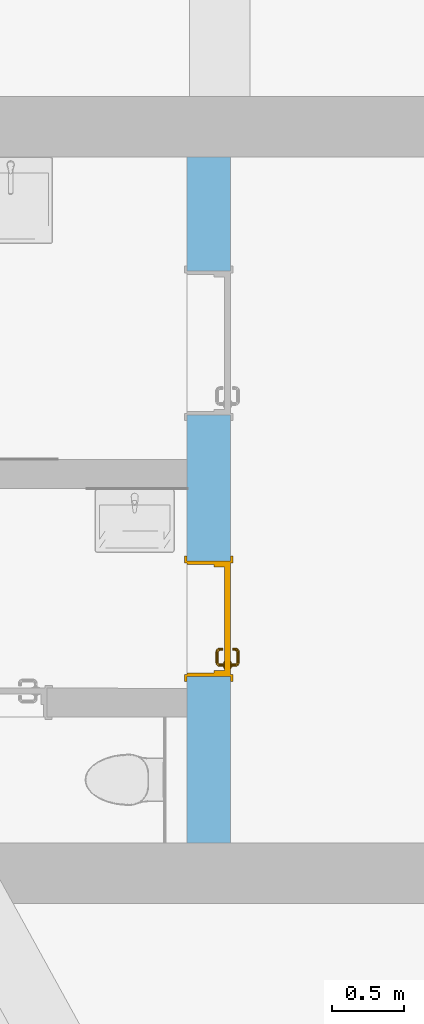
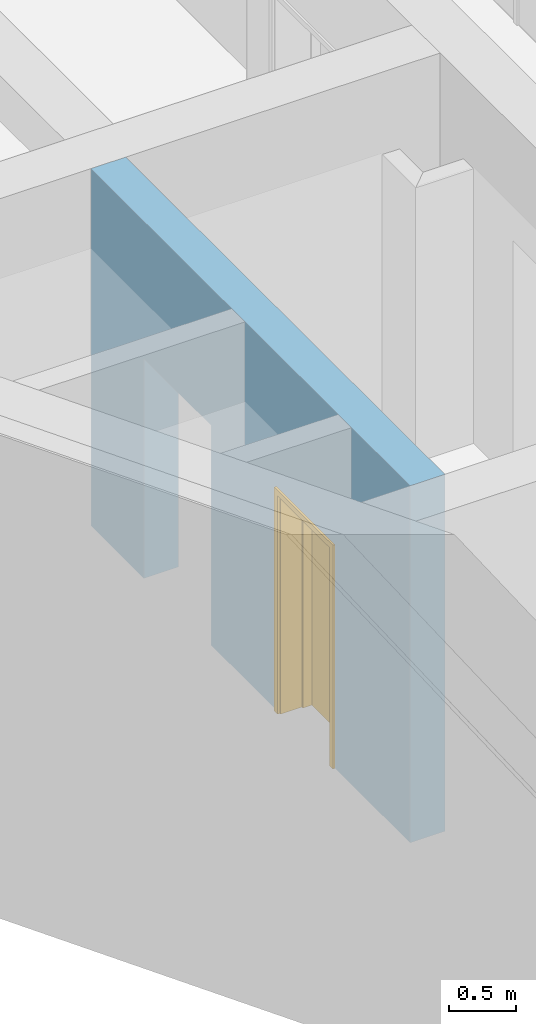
# One storey, part 47 of 194: 1 door, 2 openings, plus 1 element that does not belong to this part.
"""IFC2X3 building model written with IfcOpenShell, lengths in millimetres."""

import ifcopenshell
import ifcopenshell.guid

model = None  # the IFC model being written
_history = None  # IfcOwnerHistory: only IFC2X3 demands one
_inside = {}  # id of a spatial element -> (the spatial element, [elements in it])
_under = {}  # id of a project, library or spatial element -> (it, [spatial elements below it])
_declared = {}  # id of a project -> (the project, [libraries it declares])
_typed = {}  # id of a type object -> (the type object, [elements of that type])
_made_of = {}  # id of a material, layer set ... -> (it, [elements and type objects made of it])


def new_model(schema):
    """Start an empty IFC model of exactly this schema.

    Asked for "IFC4X3", IfcOpenShell would pick the latest addendum, in which some entities
    have other attributes; the version numbers below select the first issue.
    IFC2X3 requires an IfcOwnerHistory on every rooted entity: one is made here for all.
    """
    global model, _history
    if schema == "IFC4X3":
        model = ifcopenshell.file(schema_version=(4, 3, 0, 0))
    else:
        model = ifcopenshell.file(schema=schema)
    _inside.clear()
    _under.clear()
    _declared.clear()
    _typed.clear()
    _made_of.clear()
    _history = None
    if model.schema == "IFC2X3":
        org = make("IfcOrganization", Name="unknown")
        user = make(
            "IfcPersonAndOrganization",
            ThePerson=make("IfcPerson", FamilyName="unknown"),
            TheOrganization=org,
        )
        app = make(
            "IfcApplication",
            ApplicationDeveloper=org,
            Version="unknown",
            ApplicationFullName="unknown",
            ApplicationIdentifier="unknown",
        )
        _history = make(
            "IfcOwnerHistory",
            OwningUser=user,
            OwningApplication=app,
            ChangeAction="ADDED",
            CreationDate=0,
        )
    return model


def make(cls, **values):
    """One entity of the class cls with the attributes given. An attribute that is None is left unset."""
    return model.create_entity(
        cls, **{name: value for name, value in values.items() if value is not None}
    )


def entity(cls, *values):
    """Any entity or typed value of the class cls, its attributes in the order of the schema. None: left unset."""
    e = model.create_entity(cls)
    for i, value in enumerate(values):
        if value is not None:
            e[i] = value
    return e


def rooted(cls, **values):
    """An entity with a GlobalId (a new one), such as an element, a storey or a relation."""
    return make(cls, GlobalId=ifcopenshell.guid.new(), OwnerHistory=_history, **values)


def si_unit(unit_type, name, prefix=None):
    """IfcSIUnit, for example si_unit("LENGTHUNIT", "METRE", prefix="MILLI")."""
    return make("IfcSIUnit", UnitType=unit_type, Prefix=prefix, Name=name)


def converted_unit(unit_type, name, factor, base, dimensions=None, offset=None):
    """IfcConversionBasedUnit, such as the inch: factor (a typed value) times the base unit."""
    return make(
        "IfcConversionBasedUnit"
        if offset is None
        else "IfcConversionBasedUnitWithOffset",
        ConversionOffset=offset,
        Dimensions=None
        if dimensions is None
        else entity("IfcDimensionalExponents", *dimensions),
        UnitType=unit_type,
        Name=name,
        ConversionFactor=make(
            "IfcMeasureWithUnit", ValueComponent=factor, UnitComponent=base
        ),
    )


def derived_unit(unit_type, elements):
    """IfcDerivedUnit: a product of units, each with its exponent."""
    return make(
        "IfcDerivedUnit",
        Elements=[
            make("IfcDerivedUnitElement", Unit=unit, Exponent=power)
            for unit, power in elements
        ],
        UnitType=unit_type,
    )


def money_unit(currency):
    """IfcMonetaryUnit."""
    return make("IfcMonetaryUnit", Currency=currency)


def assignment(units):
    """IfcUnitAssignment: the units of a project."""
    return None if units is None else make("IfcUnitAssignment", Units=units)


def point(xyz):
    """IfcCartesianPoint."""
    return None if xyz is None else make("IfcCartesianPoint", Coordinates=xyz)


def direction(xyz):
    """IfcDirection."""
    return None if xyz is None else make("IfcDirection", DirectionRatios=xyz)


def frame(location, z_axis=None, x_axis=None):
    """IfcAxis2Placement3D, a coordinate frame: its origin and axes. An axis left out is left unset."""
    return make(
        "IfcAxis2Placement3D",
        Location=point(location),
        Axis=direction(z_axis),
        RefDirection=direction(x_axis),
    )


def frame_2d(location, x_axis=None):
    """IfcAxis2Placement2D, a coordinate frame in the plane: its origin and x axis."""
    return make(
        "IfcAxis2Placement2D", Location=point(location), RefDirection=direction(x_axis)
    )


def origin_with_axes():
    """The frame at (0, 0, 0) with the z axis (0, 0, 1) and the x axis (1, 0, 0) written out."""
    return frame((0.0, 0.0, 0.0), z_axis=(0.0, 0.0, 1.0), x_axis=(1.0, 0.0, 0.0))


def origin_2d_with_axis():
    """The frame at (0, 0) in the plane with the x axis (1, 0) written out."""
    return frame_2d((0.0, 0.0), x_axis=(1.0, 0.0))


def place(relative_to, where):
    """IfcLocalPlacement: puts the frame where relative to a parent placement (None: the world)."""
    return make(
        "IfcLocalPlacement", PlacementRelTo=relative_to, RelativePlacement=where
    )


def context(
    kind, dimensions, precision=None, world=None, true_north=None, identifier=None
):
    """IfcGeometricRepresentationContext, for example the 3D "Model" context."""
    return make(
        "IfcGeometricRepresentationContext",
        ContextIdentifier=identifier,
        ContextType=kind,
        CoordinateSpaceDimension=dimensions,
        Precision=precision,
        WorldCoordinateSystem=world,
        TrueNorth=true_north,
    )


def subcontext(parent, identifier, kind, view, scale=None):
    """IfcGeometricRepresentationSubContext, for example "Body" below "Model"."""
    return make(
        "IfcGeometricRepresentationSubContext",
        ContextIdentifier=identifier,
        ContextType=kind,
        ParentContext=parent,
        TargetScale=scale,
        TargetView=view,
    )


def project(units=None, contexts=None):
    """IfcProject with its units and contexts."""
    return rooted(
        "IfcProject",
        Name="project",
        RepresentationContexts=contexts,
        UnitsInContext=assignment(units),
    )


def spatial(cls, under=None, at=None, **own):
    """A site, building, storey or space (cls), placed at a placement, below another one or the project."""
    s = rooted(cls, ObjectPlacement=at, **own)
    if under is not None:
        _under.setdefault(under.id(), (under, []))[1].append(s)
    return s


def polyline(points):
    """IfcPolyline through the points."""
    return make("IfcPolyline", Points=[point(p) for p in points])


def profile(cls, at=None, kind="AREA", **sizes):
    """A parametric profile (cls). Its sizes go by their IFC names, for example OverallWidth=200.0."""
    return make(cls, ProfileType=kind, Position=at, **sizes)


def rectangle(**sizes):
    """IfcRectangleProfileDef."""
    return profile("IfcRectangleProfileDef", **sizes)


def outline(outer, holes=None, kind="AREA"):
    """IfcArbitraryClosedProfileDef: a profile drawn as a closed curve; with holes, ...WithVoids."""
    if holes is None:
        return make("IfcArbitraryClosedProfileDef", ProfileType=kind, OuterCurve=outer)
    return make(
        "IfcArbitraryProfileDefWithVoids",
        ProfileType=kind,
        OuterCurve=outer,
        InnerCurves=holes,
    )


def extrude(swept, where, along, depth):
    """IfcExtrudedAreaSolid: the profile swept, set in the frame where, extruded along a direction by depth."""
    return make(
        "IfcExtrudedAreaSolid",
        SweptArea=swept,
        Position=where,
        ExtrudedDirection=direction(along),
        Depth=depth,
    )


def faces_of(points, faces, orient=None, outer=None):
    """IfcFace entities. A face is a list of loops; a loop is a list of indices into points, from 0.

    orient and outer hold one flag for each loop. By default every Orientation is true, the
    first loop of a face is its IfcFaceOuterBound and the others are IfcFaceBound.
    """
    made = []
    for i, loops in enumerate(faces):
        bounds = []
        for j, loop in enumerate(loops):
            is_outer = j == 0 if outer is None else outer[i][j]
            bounds.append(
                make(
                    "IfcFaceOuterBound" if is_outer else "IfcFaceBound",
                    Bound=make("IfcPolyLoop", Polygon=[points[k] for k in loop]),
                    Orientation=True if orient is None else orient[i][j],
                )
            )
        made.append(make("IfcFace", Bounds=bounds))
    return made


def open_shell(faces, orient=None, outer=None):
    """The faces of one IfcOpenShell. surface_model builds it on its shared points."""
    return ("IfcOpenShell", faces, orient, outer)


def faceted_brep(points, faces, orient=None, outer=None, voids=None):
    """IfcFacetedBrep: a solid bounded by flat faces; with voids (closed shells), ...WithVoids."""
    shared = [point(p) for p in points]
    hull = make("IfcClosedShell", CfsFaces=faces_of(shared, faces, orient, outer))
    if voids is None:
        return make("IfcFacetedBrep", Outer=hull)
    return make(
        "IfcFacetedBrepWithVoids",
        Outer=hull,
        Voids=[
            make(cls, CfsFaces=faces_of(shared, fs, o, b)) for cls, fs, o, b in voids
        ],
    )


def surface_model(cls, points, shells):
    """IfcFaceBasedSurfaceModel or IfcShellBasedSurfaceModel (cls): surfaces that need not close."""
    shared = [point(p) for p in points]
    made = [make(c, CfsFaces=faces_of(shared, fs, o, b)) for c, fs, o, b in shells]
    if cls == "IfcFaceBasedSurfaceModel":
        return make(cls, FbsmFaces=made)
    return make(cls, SbsmBoundary=made)


def shape(context_of_items, identifier, shape_type, items):
    """IfcShapeRepresentation: the items that make up one representation, for example the "Body"."""
    return make(
        "IfcShapeRepresentation",
        ContextOfItems=context_of_items,
        RepresentationIdentifier=identifier,
        RepresentationType=shape_type,
        Items=items,
    )


def material(Name=None, Category=None):
    """IfcMaterial."""
    return make("IfcMaterial", Name=Name, Category=Category)


def layer(
    of_material, thickness, ventilated=None, Name=None, Category=None, Priority=None
):
    """IfcMaterialLayer: one layer of a wall or slab, of a material (None: an air gap)."""
    return make(
        "IfcMaterialLayer",
        Material=of_material,
        LayerThickness=thickness,
        IsVentilated=ventilated,
        Name=Name,
        Category=Category,
        Priority=Priority,
    )


def layer_set(layers, Name=None):
    """IfcMaterialLayerSet."""
    return make("IfcMaterialLayerSet", MaterialLayers=layers, LayerSetName=Name)


def layer_usage(for_layer_set, set_direction, sense, offset, extent=None):
    """IfcMaterialLayerSetUsage: how a layer set lies in its element."""
    return make(
        "IfcMaterialLayerSetUsage",
        ForLayerSet=for_layer_set,
        LayerSetDirection=set_direction,
        DirectionSense=sense,
        OffsetFromReferenceLine=offset,
        ReferenceExtent=extent,
    )


def made_of(thing, what):
    """Note that an element or type object is made of a material, layer set ...; save() writes the relation."""
    if what is not None:
        _made_of.setdefault(what.id(), (what, []))[1].append(thing)
    return thing


def type_object(cls, material=None, **own):
    """A type object (cls), such as IfcWallType, which elements share."""
    return made_of(rooted(cls, **own), material)


def element(
    cls,
    number,
    at=None,
    inside=None,
    cuts=None,
    type_object=None,
    material=None,
    context=None,
    identifier="Body",
    shape_type=None,
    held_by="IfcProductDefinitionShape",
    body=None,
    shapes=None,
    **own,
):
    """One element of the class cls, such as IfcWall. Its Tag is "e" and its number.

    at: its placement. inside: the storey or other place that contains it. cuts: it is an
    opening in that element (IfcRelVoidsElement). A single representation is given by context,
    identifier, shape_type and body (its items); several are given by shapes. held_by: the class
    of the entity that holds the representations. save() writes the other relations.
    """
    e = rooted(cls, Tag="e%d" % number, ObjectPlacement=at, **own)
    if body is not None:
        shapes = [shape(context, identifier, shape_type, body)]
    if shapes is not None:
        e.Representation = make(held_by, Representations=shapes)
    if inside is not None:
        _inside.setdefault(inside.id(), (inside, []))[1].append(e)
    if cuts is not None:
        rooted(
            "IfcRelVoidsElement", RelatingBuildingElement=cuts, RelatedOpeningElement=e
        )
    if type_object is not None:
        _typed.setdefault(type_object.id(), (type_object, []))[1].append(e)
    return made_of(e, material)


def fill(opening, filler):
    """IfcRelFillsElement: the door or window that sits in an opening."""
    return rooted(
        "IfcRelFillsElement",
        RelatingOpeningElement=opening,
        RelatedBuildingElement=filler,
    )


def aggregate(whole, parts):
    """IfcRelAggregates: a whole, such as a stair, and the parts it consists of."""
    return rooted("IfcRelAggregates", RelatingObject=whole, RelatedObjects=parts)


def save(model, path):
    """Write the relations noted so far, then the file.

    IfcRelAggregates (storeys below a building ...), IfcRelContainedInSpatialStructure (elements
    in a storey), IfcRelDefinesByType, IfcRelAssociatesMaterial and IfcRelDeclares: one each for
    every whole, place, type object, material and project.
    """
    for whole, parts in _under.values():
        aggregate(whole, parts)
    for where, things in _inside.values():
        rooted(
            "IfcRelContainedInSpatialStructure",
            RelatedElements=things,
            RelatingStructure=where,
        )
    for kind, things in _typed.values():
        rooted("IfcRelDefinesByType", RelatedObjects=things, RelatingType=kind)
    for what, things in _made_of.values():
        rooted("IfcRelAssociatesMaterial", RelatedObjects=things, RelatingMaterial=what)
    for by, libraries in _declared.values():
        rooted("IfcRelDeclares", RelatingContext=by, RelatedDefinitions=libraries)
    model.write(path)


model = new_model("IFC2X3")

# Units and contexts
model_context = context("Model", 3, precision=1e-05, world=origin_with_axes(), true_north=direction((0.0, 1.0)))
body_context = subcontext(model_context, "Body", "Model", "MODEL_VIEW")
ifc_project = project(units=[si_unit("LENGTHUNIT", "METRE", prefix="MILLI"), si_unit("AREAUNIT", "SQUARE_METRE"), si_unit("VOLUMEUNIT", "CUBIC_METRE"), converted_unit("PLANEANGLEUNIT", "DEGREE", entity("IfcPlaneAngleMeasure", 0.0174532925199), si_unit("PLANEANGLEUNIT", "RADIAN"), dimensions=[0, 0, 0, 0, 0, 0, 0]), si_unit("SOLIDANGLEUNIT", "STERADIAN"), money_unit("EUR"), converted_unit("TIMEUNIT", "Year", entity("IfcTimeMeasure", 31556926.0), si_unit("TIMEUNIT", "SECOND"), dimensions=[0, 0, 1, 0, 0, 0, 0]), si_unit("MASSUNIT", "GRAM", prefix="KILO"), si_unit("THERMODYNAMICTEMPERATUREUNIT", "DEGREE_CELSIUS"), si_unit("LUMINOUSINTENSITYUNIT", "LUMEN"), si_unit("ENERGYUNIT", "JOULE", prefix="MEGA"), derived_unit("THERMALCONDUCTANCEUNIT", [(si_unit("POWERUNIT", "WATT"), 1), (si_unit("LENGTHUNIT", "METRE"), -1), (si_unit("THERMODYNAMICTEMPERATUREUNIT", "KELVIN"), -1)]), derived_unit("SPECIFICHEATCAPACITYUNIT", [(si_unit("ENERGYUNIT", "JOULE"), 1), (si_unit("MASSUNIT", "GRAM", prefix="KILO"), -1), (si_unit("THERMODYNAMICTEMPERATUREUNIT", "KELVIN"), -1)]), derived_unit("MASSDENSITYUNIT", [(si_unit("MASSUNIT", "GRAM", prefix="KILO"), 1), (si_unit("VOLUMEUNIT", "CUBIC_METRE"), -1)])], contexts=[model_context])

# Site, building, storey
site_placement = place(None, origin_with_axes())
site = spatial("IfcSite", under=ifc_project, at=site_placement, Name="Site", CompositionType="ELEMENT")
building_placement = place(site_placement, origin_with_axes())
building = spatial("IfcBuilding", under=site, at=building_placement, Name="Building", CompositionType="ELEMENT")
storey_placement = place(building_placement, frame((0.0, 0.0, 3000.0), z_axis=(0.0, 0.0, 1.0), x_axis=(1.0, 0.0, 0.0)))
storey = spatial("IfcBuildingStorey", under=building, at=storey_placement, Name="2 KORRUS", CompositionType="ELEMENT", Elevation=3000.0)

# Wall, openings, door
ifc_material = material(Name="Kivi -Ol.Olev Konstruktsioon")
ifc_layer = layer(ifc_material, 300.0, ventilated="UNKNOWN")
ifc_layer_set = layer_set([ifc_layer], Name="ol.olev ss 300")
ifc_layer_usage = layer_usage(ifc_layer_set, "AXIS2", "POSITIVE", 0.0)
wall_type = type_object("IfcWallType", Name="SW - 022", PredefinedType="NOTDEFINED")
wall_placement = place(storey_placement, frame((33717.5084509, 13483.9813304, 0.0), z_axis=(0.0, 0.0, 1.0), x_axis=(0.0, -1.0, 0.0)))
wall = element("IfcWallStandardCase", 1, at=wall_placement, inside=storey, type_object=wall_type, material=ifc_layer_usage, Name="ol.olev ss 300", context=body_context, shape_type="SweptSolid", body=[
    extrude(outline(polyline([(0.0, 0.0), (4760.45253446, 0.0), (4760.45253446, 300.0), (0.0, 300.0), (0.0, 0.0)])), origin_with_axes(), (0.0, 0.0, 1.0), 3250.0),
])
opening_1_placement = place(wall_placement, frame((3204.63694047, 0.0, 0.0), z_axis=(0.0, 0.0, 1.0), x_axis=(1.0, 0.0, 0.0)))
opening_1 = element("IfcOpeningElement", 2, at=opening_1_placement, cuts=wall, Name="Siseuks * Door 22", context=body_context, shape_type="SweptSolid", body=[
    extrude(rectangle(XDim=799.999999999, YDim=2000.0, at=origin_2d_with_axis()), frame((0.0, -300.0, 1000.0), z_axis=(0.0, -1.0, 0.0), x_axis=(-1.0, 0.0, 0.0)), (0.0, 0.0, -1.0), 900.0),
    extrude(rectangle(XDim=874.0, YDim=2037.0, at=origin_2d_with_axis()), frame((0.0, 0.0, 1018.5), z_axis=(0.0, -1.0, 0.0), x_axis=(-1.0, 0.0, 0.0)), (0.0, 0.0, 1.0), 300.0),
    extrude(rectangle(XDim=874.0, YDim=2037.0, at=origin_2d_with_axis()), frame((0.0, 300.0, 1018.5), z_axis=(0.0, 1.0, 0.0), x_axis=(-1.0, 0.0, 0.0)), (0.0, 0.0, 1.0), 300.0),
])
opening_2_placement = place(wall_placement, frame((1291.46386027, 0.0, 0.0), z_axis=(0.0, 0.0, 1.0), x_axis=(1.0, 0.0, 0.0)))
element("IfcOpeningElement", 3, at=opening_2_placement, cuts=wall, Name="Siseuks * Door 22", context=body_context, shape_type="SweptSolid", body=[
    extrude(rectangle(XDim=1000.0, YDim=2000.0, at=origin_2d_with_axis()), frame((0.0, -300.0, 1000.0), z_axis=(0.0, -1.0, 0.0), x_axis=(-1.0, 0.0, 0.0)), (0.0, 0.0, -1.0), 900.0),
    extrude(rectangle(XDim=1074.0, YDim=2037.0, at=origin_2d_with_axis()), frame((0.0, 0.0, 1018.5), z_axis=(0.0, -1.0, 0.0), x_axis=(-1.0, 0.0, 0.0)), (0.0, 0.0, 1.0), 300.0),
    extrude(rectangle(XDim=1074.0, YDim=2037.0, at=origin_2d_with_axis()), frame((0.0, 300.0, 1018.5), z_axis=(0.0, 1.0, 0.0), x_axis=(-1.0, 0.0, 0.0)), (0.0, 0.0, 1.0), 300.0),
])
door_style = type_object("IfcDoorStyle", Name="SU-C209   800×2\xa0000", ConstructionType="NOTDEFINED", OperationType="SINGLE_SWING_LEFT", ParameterTakesPrecedence=False, Sizeable=False)
door_placement = place(opening_1_placement, frame((-400.0, 0.0, 0.0), z_axis=(0.0, 0.0, 1.0), x_axis=(1.0, 0.0, 0.0)))
door = element("IfcDoor", 4, at=door_placement, inside=storey, type_object=door_style, Name="Siseuks * Door 22", OverallHeight=2000.0, OverallWidth=800.0, context=body_context, shape_type="SurfaceModel", body=[
    faceted_brep([(799.999999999, 185.0, 0.0), (799.999999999, 0.0, 0.0), (775.0, 0.0, 0.0), (775.0, 185.0, 0.0), (799.999999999, 185.0, 2000.0), (799.999999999, 0.0, 2000.0), (775.0, 0.0, 1975.0), (775.0, 185.0, 1975.0)], [[[0, 1, 2, 3]], [[4, 5, 1, 0]], [[1, 5, 6, 2]], [[3, 2, 6, 7]], [[0, 3, 7, 4]], [[7, 6, 5, 4]]]),
    faceted_brep([(0.0, 185.0, 2000.0), (0.0, 0.0, 2000.0), (24.9999999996, 0.0, 1975.0), (24.9999999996, 185.0, 1975.0), (0.0, 185.0, 0.0), (0.0, 0.0, 0.0), (24.9999999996, 0.0, 0.0), (24.9999999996, 185.0, 0.0)], [[[0, 1, 2, 3]], [[4, 5, 1, 0]], [[1, 5, 6, 2]], [[3, 2, 6, 7]], [[0, 3, 7, 4]], [[7, 6, 5, 4]]]),
    faceted_brep([(775.0, 185.0, 1975.0), (775.0, 0.0, 1975.0), (24.9999999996, 0.0, 1975.0), (24.9999999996, 185.0, 1975.0), (799.999999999, 185.0, 2000.0), (799.999999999, 0.0, 2000.0), (0.0, 0.0, 2000.0), (0.0, 185.0, 2000.0)], [[[0, 1, 2, 3]], [[4, 5, 1, 0]], [[1, 5, 6, 2]], [[3, 2, 6, 7]], [[0, 3, 7, 4]], [[7, 6, 5, 4]]]),
    faceted_brep([(837.0, -19.0, 0.0), (786.999999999, -19.0, 0.0), (786.999999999, 0.0, 0.0), (837.0, 0.0, 0.0), (837.0, -19.0, 2037.0), (786.999999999, -19.0, 1987.0), (786.999999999, 0.0, 1987.0), (837.0, 0.0, 2037.0)], [[[0, 1, 2, 3]], [[0, 4, 5, 1]], [[1, 5, 6, 2]], [[3, 2, 6, 7]], [[4, 0, 3, 7]], [[5, 4, 7, 6]]]),
    faceted_brep([(-37.0000000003, -19.0, 2037.0), (12.9999999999, -19.0, 1987.0), (12.9999999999, 0.0, 1987.0), (-37.0000000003, 0.0, 2037.0), (-37.0000000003, -19.0, 0.0), (12.9999999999, -19.0, 0.0), (12.9999999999, 0.0, 0.0), (-37.0000000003, 0.0, 0.0)], [[[0, 1, 2, 3]], [[0, 4, 5, 1]], [[1, 5, 6, 2]], [[3, 2, 6, 7]], [[4, 0, 3, 7]], [[5, 4, 7, 6]]]),
    faceted_brep([(837.0, -19.0, 2037.0), (786.999999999, -19.0, 1987.0), (786.999999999, 0.0, 1987.0), (837.0, 0.0, 2037.0), (-37.0000000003, -19.0, 2037.0), (12.9999999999, -19.0, 1987.0), (12.9999999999, 0.0, 1987.0), (-37.0000000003, 0.0, 2037.0)], [[[0, 1, 2, 3]], [[0, 4, 5, 1]], [[1, 5, 6, 2]], [[3, 2, 6, 7]], [[4, 0, 3, 7]], [[5, 4, 7, 6]]]),
    faceted_brep([(837.0, 319.0, 0.0), (837.0, 300.0, 0.0), (786.999999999, 300.0, 0.0), (786.999999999, 319.0, 0.0), (837.0, 319.0, 2037.0), (837.0, 300.0, 2037.0), (786.999999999, 300.0, 1987.0), (786.999999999, 319.0, 1987.0)], [[[0, 1, 2, 3]], [[4, 5, 1, 0]], [[1, 5, 6, 2]], [[3, 2, 6, 7]], [[0, 3, 7, 4]], [[7, 6, 5, 4]]]),
    faceted_brep([(-37.0000000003, 319.0, 2037.0), (-37.0000000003, 300.0, 2037.0), (12.9999999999, 300.0, 1987.0), (12.9999999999, 319.0, 1987.0), (-37.0000000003, 319.0, 0.0), (-37.0000000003, 300.0, 0.0), (12.9999999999, 300.0, 0.0), (12.9999999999, 319.0, 0.0)], [[[0, 1, 2, 3]], [[4, 5, 1, 0]], [[1, 5, 6, 2]], [[3, 2, 6, 7]], [[0, 3, 7, 4]], [[7, 6, 5, 4]]]),
    faceted_brep([(837.0, 319.0, 2037.0), (837.0, 300.0, 2037.0), (786.999999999, 300.0, 1987.0), (786.999999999, 319.0, 1987.0), (-37.0000000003, 319.0, 2037.0), (-37.0000000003, 300.0, 2037.0), (12.9999999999, 300.0, 1987.0), (12.9999999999, 319.0, 1987.0)], [[[0, 1, 2, 3]], [[4, 5, 1, 0]], [[1, 5, 6, 2]], [[3, 2, 6, 7]], [[0, 3, 7, 4]], [[7, 6, 5, 4]]]),
    faceted_brep([(759.999999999, 260.0, 0.0), (759.999999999, 185.0, 0.0), (759.999999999, 185.0, 1960.0), (759.999999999, 260.0, 1960.0), (772.0, 260.0, 0.0), (772.0, 300.0, 0.0), (799.999999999, 300.0, 0.0), (799.999999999, 185.0, 0.0), (799.999999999, 185.0, 1960.0), (772.0, 260.0, 1960.0), (799.999999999, 300.0, 1960.0), (772.0, 300.0, 1960.0)], [[[0, 1, 2, 3]], [[4, 5, 6, 7, 1, 0]], [[1, 7, 8, 2]], [[9, 3, 2, 8, 10, 11]], [[9, 4, 0, 3]], [[11, 5, 4, 9]], [[11, 10, 6, 5]], [[6, 10, 8, 7]]]),
    faceted_brep([(27.9999999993, 260.0, 1960.0), (27.9999999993, 300.0, 1960.0), (0.0, 300.0, 1960.0), (0.0, 185.0, 1960.0), (40.0, 185.0, 1960.0), (40.0, 260.0, 1960.0), (27.9999999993, 260.0, 0.0), (27.9999999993, 300.0, 0.0), (0.0, 300.0, 0.0), (0.0, 185.0, 0.0), (40.0, 185.0, 0.0), (40.0, 260.0, 0.0)], [[[0, 1, 2, 3, 4, 5]], [[0, 6, 7, 1]], [[7, 8, 2, 1]], [[2, 8, 9, 3]], [[3, 9, 10, 4]], [[5, 4, 10, 11]], [[5, 11, 6, 0]], [[6, 11, 10, 9, 8, 7]]]),
    faceted_brep([(772.0, 300.0, 1972.0), (27.9999999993, 300.0, 1972.0), (27.9999999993, 300.0, 1960.0), (0.0, 300.0, 1960.0), (0.0, 300.0, 2000.0), (799.999999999, 300.0, 2000.0), (799.999999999, 300.0, 1960.0), (772.0, 300.0, 1960.0), (772.0, 260.0, 1972.0), (27.9999999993, 260.0, 1972.0), (27.9999999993, 260.0, 1960.0), (40.0, 260.0, 1960.0), (40.0, 185.0, 1960.0), (0.0, 185.0, 1960.0), (0.0, 185.0, 2000.0), (799.999999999, 185.0, 2000.0), (799.999999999, 185.0, 1960.0), (772.0, 260.0, 1960.0), (759.999999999, 185.0, 1960.0), (759.999999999, 260.0, 1960.0)], [[[0, 1, 2, 3, 4, 5, 6, 7]], [[0, 8, 9, 1]], [[1, 9, 10, 2]], [[10, 11, 12, 13, 3, 2]], [[4, 3, 13, 14]], [[5, 4, 14, 15]], [[6, 5, 15, 16]], [[17, 7, 6, 16, 18, 19]], [[7, 17, 8, 0]], [[10, 9, 8, 17, 19, 11]], [[19, 18, 12, 11]], [[12, 18, 16, 15, 14, 13]]]),
    faceted_brep([(750.499999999, 260.0, 1060.0), (693.499999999, 260.0, 1060.0), (693.499999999, 257.0, 1060.0), (750.499999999, 257.0, 1060.0), (750.499999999, 260.0, 870.0), (693.499999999, 260.0, 870.0), (693.499999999, 257.0, 870.0), (750.499999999, 257.0, 870.0)], [[[0, 1, 2, 3]], [[0, 4, 5, 1]], [[1, 5, 6, 2]], [[3, 2, 6, 7]], [[4, 0, 3, 7]], [[5, 4, 7, 6]]]),
    surface_model("IfcShellBasedSurfaceModel", [(712.0, 247.0, 1000.0), (714.928932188, 247.0, 992.928932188), (714.928932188, 227.696439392, 992.928932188), (712.0, 227.984914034, 1000.0), (722.0, 247.0, 990.0), (722.0, 227.0, 990.0), (713.816790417, 222.105325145, 992.928932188), (711.057796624, 223.248137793, 1000.0), (714.928932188, 247.0, 1007.07106781), (714.928932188, 227.696439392, 1007.07106781), (729.071067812, 247.0, 992.928932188), (729.071067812, 226.303560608, 992.928932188), (720.47759065, 219.346331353, 990.0), (711.044179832, 217.955820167, 992.928932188), (708.932537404, 220.067462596, 1000.0), (713.816790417, 222.105325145, 1007.07106781), (722.0, 247.0, 1010.0), (722.0, 227.0, 1010.0), (732.0, 247.0, 1000.0), (732.0, 226.015085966, 1000.0), (727.138390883, 216.58733756, 992.928932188), (716.142135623, 212.857864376, 990.0), (706.894674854, 215.183209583, 992.928932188), (705.751862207, 217.942203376, 1000.0), (711.044179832, 217.955820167, 1007.07106781), (720.47759065, 219.346331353, 1010.0), (729.071067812, 247.0, 1007.07106781), (729.071067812, 226.303560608, 1007.07106781), (729.897384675, 215.444524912, 1000.0), (721.240091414, 207.759908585, 992.928932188), (709.653668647, 208.52240935, 990.0), (701.303560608, 214.071067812, 992.928932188), (701.015085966, 217.0, 1000.0), (706.894674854, 215.183209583, 1007.07106781), (716.142135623, 212.857864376, 1010.0), (727.138390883, 216.58733756, 1007.07106781), (723.351733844, 205.648266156, 1000.0), (712.412662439, 201.861609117, 992.928932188), (701.999999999, 207.0, 990.0), (632.696439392, 214.071067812, 992.928932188), (632.984914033, 217.0, 1000.0), (701.303560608, 214.071067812, 1007.07106781), (709.653668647, 208.52240935, 1010.0), (721.240091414, 207.759908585, 1007.07106781), (713.555475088, 199.102615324, 1000.0), (702.696439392, 199.928932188, 992.928932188), (632.0, 207.0, 990.0), (627.105325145, 215.183209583, 992.928932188), (628.248137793, 217.942203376, 1000.0), (632.696439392, 214.071067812, 1007.07106781), (701.999999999, 207.0, 1010.0), (712.412662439, 201.861609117, 1007.07106781), (702.984914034, 197.0, 1000.0), (631.303560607, 199.928932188, 992.928932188), (624.346331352, 208.52240935, 990.0), (622.955820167, 217.955820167, 992.928932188), (625.067462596, 220.067462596, 1000.0), (627.105325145, 215.183209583, 1007.07106781), (632.0, 207.0, 1010.0), (702.696439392, 199.928932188, 1007.07106781), (631.015085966, 197.0, 1000.0), (621.58733756, 201.861609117, 992.928932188), (617.857864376, 212.857864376, 990.0), (620.183209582, 222.105325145, 992.928932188), (622.942203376, 223.248137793, 1000.0), (622.955820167, 217.955820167, 1007.07106781), (624.346331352, 208.52240935, 1010.0), (631.303560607, 199.928932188, 1007.07106781), (620.444524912, 199.102615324, 1000.0), (612.759908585, 207.759908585, 992.928932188), (613.52240935, 219.346331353, 990.0), (619.071067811, 227.696439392, 992.928932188), (621.999999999, 227.984914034, 1000.0), (620.183209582, 222.105325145, 1007.07106781), (617.857864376, 212.857864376, 1010.0), (621.58733756, 201.861609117, 1007.07106781), (610.648266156, 205.648266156, 1000.0), (606.861609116, 216.58733756, 992.928932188), (612.0, 227.0, 990.0), (619.071067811, 247.0, 992.928932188), (621.999999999, 247.0, 1000.0), (619.071067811, 227.696439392, 1007.07106781), (613.52240935, 219.346331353, 1010.0), (612.759908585, 207.759908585, 1007.07106781), (604.102615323, 215.444524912, 1000.0), (604.928932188, 226.303560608, 992.928932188), (612.0, 247.0, 990.0), (604.928932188, 247.0, 992.928932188), (602.0, 247.0, 1000.0), (604.928932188, 247.0, 1007.07106781), (612.0, 247.0, 1010.0), (619.071067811, 247.0, 1007.07106781), (612.0, 227.0, 1010.0), (606.861609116, 216.58733756, 1007.07106781), (602.0, 226.015085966, 1000.0), (604.928932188, 226.303560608, 1007.07106781)], [open_shell([[[0, 1, 2, 3]], [[1, 4, 5, 2]], [[3, 2, 6, 7]], [[8, 0, 3, 9]], [[4, 10, 11, 5]], [[2, 5, 12, 6]], [[7, 6, 13, 14]], [[9, 3, 7, 15]], [[16, 8, 9, 17]], [[10, 18, 19, 11]], [[5, 11, 20, 12]], [[6, 12, 21, 13]], [[14, 13, 22, 23]], [[15, 7, 14, 24]], [[17, 9, 15, 25]], [[26, 16, 17, 27]], [[18, 26, 27, 19]], [[11, 19, 28, 20]], [[12, 20, 29, 21]], [[13, 21, 30, 22]], [[23, 22, 31, 32]], [[24, 14, 23, 33]], [[25, 15, 24, 34]], [[27, 17, 25, 35]], [[19, 27, 35, 28]], [[20, 28, 36, 29]], [[21, 29, 37, 30]], [[22, 30, 38, 31]], [[32, 31, 39, 40]], [[33, 23, 32, 41]], [[34, 24, 33, 42]], [[35, 25, 34, 43]], [[28, 35, 43, 36]], [[29, 36, 44, 37]], [[30, 37, 45, 38]], [[31, 38, 46, 39]], [[40, 39, 47, 48]], [[41, 32, 40, 49]], [[42, 33, 41, 50]], [[43, 34, 42, 51]], [[36, 43, 51, 44]], [[37, 44, 52, 45]], [[38, 45, 53, 46]], [[39, 46, 54, 47]], [[48, 47, 55, 56]], [[49, 40, 48, 57]], [[50, 41, 49, 58]], [[51, 42, 50, 59]], [[44, 51, 59, 52]], [[45, 52, 60, 53]], [[46, 53, 61, 54]], [[47, 54, 62, 55]], [[56, 55, 63, 64]], [[57, 48, 56, 65]], [[58, 49, 57, 66]], [[59, 50, 58, 67]], [[52, 59, 67, 60]], [[53, 60, 68, 61]], [[54, 61, 69, 62]], [[55, 62, 70, 63]], [[64, 63, 71, 72]], [[65, 56, 64, 73]], [[66, 57, 65, 74]], [[67, 58, 66, 75]], [[60, 67, 75, 68]], [[61, 68, 76, 69]], [[62, 69, 77, 70]], [[63, 70, 78, 71]], [[72, 71, 79, 80]], [[73, 64, 72, 81]], [[74, 65, 73, 82]], [[75, 66, 74, 83]], [[68, 75, 83, 76]], [[69, 76, 84, 77]], [[70, 77, 85, 78]], [[71, 78, 86, 79]], [[80, 79, 86, 87, 88, 89, 90, 91]], [[81, 72, 80, 91]], [[82, 73, 81, 92]], [[83, 74, 82, 93]], [[76, 83, 93, 84]], [[77, 84, 94, 85]], [[78, 85, 87, 86]], [[85, 94, 88, 87]], [[94, 95, 89, 88]], [[95, 92, 90, 89]], [[92, 81, 91, 90]], [[93, 82, 92, 95]], [[84, 93, 95, 94]]])]),
    faceted_brep([(711.607695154, 247.0, 994.0), (710.0, 247.0, 1000.0), (709.0, 257.0, 1000.0), (710.741669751, 257.0, 993.5), (715.999999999, 247.0, 989.607695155), (722.0, 247.0, 988.0), (728.0, 247.0, 989.607695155), (732.392304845, 247.0, 994.0), (733.999999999, 247.0, 1000.0), (732.392304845, 247.0, 1006.0), (728.0, 247.0, 1010.39230485), (722.0, 247.0, 1012.0), (715.999999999, 247.0, 1010.39230485), (711.607695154, 247.0, 1006.0), (710.741669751, 257.0, 1006.5), (715.499999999, 257.0, 1011.25833025), (722.0, 257.0, 1013.0), (728.499999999, 257.0, 1011.25833025), (733.258330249, 257.0, 1006.5), (735.0, 257.0, 1000.0), (733.258330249, 257.0, 993.5), (728.499999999, 257.0, 988.741669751), (722.0, 257.0, 987.0), (715.499999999, 257.0, 988.741669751)], [[[0, 1, 2, 3]], [[1, 0, 4, 5, 6, 7, 8, 9, 10, 11, 12, 13]], [[1, 13, 14, 2]], [[2, 14, 15, 16, 17, 18, 19, 20, 21, 22, 23, 3]], [[4, 0, 3, 23]], [[5, 4, 23, 22]], [[6, 5, 22, 21]], [[7, 6, 21, 20]], [[8, 7, 20, 19]], [[9, 8, 19, 18]], [[10, 9, 18, 17]], [[11, 10, 17, 16]], [[12, 11, 16, 15]], [[13, 12, 15, 14]]]),
    faceted_brep([(704.679491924, 253.0, 895.0), (701.999999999, 253.0, 905.0), (700.0, 257.0, 905.0), (702.947441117, 257.0, 894.0), (712.0, 253.0, 887.679491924), (722.0, 253.0, 885.0), (732.0, 253.0, 887.679491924), (739.320508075, 253.0, 895.0), (741.999999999, 253.0, 905.0), (739.320508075, 253.0, 915.0), (732.0, 253.0, 922.320508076), (722.0, 253.0, 925.0), (712.0, 253.0, 922.320508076), (704.679491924, 253.0, 915.0), (702.947441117, 257.0, 916.0), (710.999999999, 257.0, 924.052558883), (722.0, 257.0, 927.0), (732.999999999, 257.0, 924.052558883), (741.052558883, 257.0, 916.0), (744.0, 257.0, 905.0), (741.052558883, 257.0, 894.0), (732.999999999, 257.0, 885.947441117), (722.0, 257.0, 883.0), (710.999999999, 257.0, 885.947441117)], [[[0, 1, 2, 3]], [[1, 0, 4, 5, 6, 7, 8, 9, 10, 11, 12, 13]], [[1, 13, 14, 2]], [[2, 14, 15, 16, 17, 18, 19, 20, 21, 22, 23, 3]], [[4, 0, 3, 23]], [[5, 4, 23, 22]], [[6, 5, 22, 21]], [[7, 6, 21, 20]], [[8, 7, 20, 19]], [[9, 8, 19, 18]], [[10, 9, 18, 17]], [[11, 10, 17, 16]], [[12, 11, 16, 15]], [[13, 12, 15, 14]]]),
    faceted_brep([(717.050252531, 251.0, 909.050252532), (714.999999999, 251.0, 914.0), (714.0, 253.0, 914.0), (716.34314575, 253.0, 908.343145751), (722.0, 251.0, 907.0), (726.949747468, 251.0, 909.050252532), (728.999999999, 251.0, 914.0), (726.949747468, 251.0, 918.949747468), (722.0, 251.0, 921.0), (717.050252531, 251.0, 918.949747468), (716.34314575, 253.0, 919.656854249), (722.0, 253.0, 922.0), (727.656854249, 253.0, 919.656854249), (730.0, 253.0, 914.0), (727.656854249, 253.0, 908.343145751), (722.0, 253.0, 906.0)], [[[0, 1, 2, 3]], [[1, 0, 4, 5, 6, 7, 8, 9]], [[1, 9, 10, 2]], [[2, 10, 11, 12, 13, 14, 15, 3]], [[4, 0, 3, 15]], [[5, 4, 15, 14]], [[6, 5, 14, 13]], [[7, 6, 13, 12]], [[8, 7, 12, 11]], [[9, 8, 11, 10]]]),
    faceted_brep([(750.499999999, 300.0, 1060.0), (750.499999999, 303.0, 1060.0), (693.499999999, 303.0, 1060.0), (693.499999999, 300.0, 1060.0), (750.499999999, 300.0, 870.0), (750.499999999, 303.0, 870.0), (693.499999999, 303.0, 870.0), (693.499999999, 300.0, 870.0)], [[[0, 1, 2, 3]], [[4, 5, 1, 0]], [[1, 5, 6, 2]], [[3, 2, 6, 7]], [[0, 3, 7, 4]], [[7, 6, 5, 4]]]),
    surface_model("IfcShellBasedSurfaceModel", [(712.0, 313.0, 1000.0), (712.0, 332.015085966, 1000.0), (714.928932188, 332.303560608, 992.928932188), (714.928932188, 313.0, 992.928932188), (714.928932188, 313.0, 1007.07106781), (714.928932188, 332.303560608, 1007.07106781), (711.057796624, 336.751862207, 1000.0), (713.816790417, 337.894674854, 992.928932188), (722.0, 333.0, 990.0), (722.0, 313.0, 990.0), (722.0, 313.0, 1010.0), (722.0, 333.0, 1010.0), (713.816790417, 337.894674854, 1007.07106781), (708.932537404, 339.932537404, 1000.0), (711.044179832, 342.044179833, 992.928932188), (720.47759065, 340.653668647, 990.0), (729.071067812, 333.696439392, 992.928932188), (729.071067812, 313.0, 992.928932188), (729.071067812, 313.0, 1007.07106781), (729.071067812, 333.696439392, 1007.07106781), (720.47759065, 340.653668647, 1010.0), (711.044179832, 342.044179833, 1007.07106781), (705.751862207, 342.057796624, 1000.0), (706.894674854, 344.816790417, 992.928932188), (716.142135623, 347.142135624, 990.0), (727.138390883, 343.41266244, 992.928932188), (732.0, 333.984914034, 1000.0), (732.0, 313.0, 1000.0), (727.138390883, 343.41266244, 1007.07106781), (716.142135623, 347.142135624, 1010.0), (706.894674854, 344.816790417, 1007.07106781), (701.015085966, 343.0, 1000.0), (701.303560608, 345.928932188, 992.928932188), (709.653668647, 351.47759065, 990.0), (721.240091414, 352.240091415, 992.928932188), (729.897384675, 344.555475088, 1000.0), (721.240091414, 352.240091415, 1007.07106781), (709.653668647, 351.47759065, 1010.0), (701.303560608, 345.928932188, 1007.07106781), (632.984914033, 343.0, 1000.0), (632.696439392, 345.928932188, 992.928932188), (701.999999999, 353.0, 990.0), (712.412662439, 358.138390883, 992.928932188), (723.351733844, 354.351733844, 1000.0), (712.412662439, 358.138390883, 1007.07106781), (701.999999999, 353.0, 1010.0), (632.696439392, 345.928932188, 1007.07106781), (628.248137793, 342.057796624, 1000.0), (627.105325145, 344.816790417, 992.928932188), (632.0, 353.0, 990.0), (702.696439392, 360.071067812, 992.928932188), (713.555475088, 360.897384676, 1000.0), (702.696439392, 360.071067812, 1007.07106781), (632.0, 353.0, 1010.0), (627.105325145, 344.816790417, 1007.07106781), (625.067462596, 339.932537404, 1000.0), (622.955820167, 342.044179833, 992.928932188), (624.346331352, 351.47759065, 990.0), (631.303560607, 360.071067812, 992.928932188), (702.984914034, 363.0, 1000.0), (631.303560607, 360.071067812, 1007.07106781), (624.346331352, 351.47759065, 1010.0), (622.955820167, 342.044179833, 1007.07106781), (622.942203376, 336.751862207, 1000.0), (620.183209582, 337.894674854, 992.928932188), (617.857864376, 347.142135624, 990.0), (621.58733756, 358.138390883, 992.928932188), (631.015085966, 363.0, 1000.0), (621.58733756, 358.138390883, 1007.07106781), (617.857864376, 347.142135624, 1010.0), (620.183209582, 337.894674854, 1007.07106781), (621.999999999, 332.015085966, 1000.0), (619.071067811, 332.303560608, 992.928932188), (613.52240935, 340.653668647, 990.0), (612.759908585, 352.240091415, 992.928932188), (620.444524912, 360.897384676, 1000.0), (612.759908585, 352.240091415, 1007.07106781), (613.52240935, 340.653668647, 1010.0), (619.071067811, 332.303560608, 1007.07106781), (621.999999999, 313.0, 1000.0), (619.071067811, 313.0, 992.928932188), (612.0, 333.0, 990.0), (606.861609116, 343.41266244, 992.928932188), (610.648266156, 354.351733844, 1000.0), (606.861609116, 343.41266244, 1007.07106781), (612.0, 333.0, 1010.0), (619.071067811, 313.0, 1007.07106781), (612.0, 313.0, 1010.0), (604.928932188, 313.0, 1007.07106781), (602.0, 313.0, 1000.0), (604.928932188, 313.0, 992.928932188), (612.0, 313.0, 990.0), (604.928932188, 333.696439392, 992.928932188), (604.102615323, 344.555475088, 1000.0), (604.928932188, 333.696439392, 1007.07106781), (602.0, 333.984914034, 1000.0)], [open_shell([[[0, 1, 2, 3]], [[4, 5, 1, 0]], [[1, 6, 7, 2]], [[3, 2, 8, 9]], [[10, 11, 5, 4]], [[5, 12, 6, 1]], [[6, 13, 14, 7]], [[2, 7, 15, 8]], [[9, 8, 16, 17]], [[18, 19, 11, 10]], [[11, 20, 12, 5]], [[12, 21, 13, 6]], [[13, 22, 23, 14]], [[7, 14, 24, 15]], [[8, 15, 25, 16]], [[17, 16, 26, 27]], [[27, 26, 19, 18]], [[19, 28, 20, 11]], [[20, 29, 21, 12]], [[21, 30, 22, 13]], [[22, 31, 32, 23]], [[14, 23, 33, 24]], [[15, 24, 34, 25]], [[16, 25, 35, 26]], [[26, 35, 28, 19]], [[28, 36, 29, 20]], [[29, 37, 30, 21]], [[30, 38, 31, 22]], [[31, 39, 40, 32]], [[23, 32, 41, 33]], [[24, 33, 42, 34]], [[25, 34, 43, 35]], [[35, 43, 36, 28]], [[36, 44, 37, 29]], [[37, 45, 38, 30]], [[38, 46, 39, 31]], [[39, 47, 48, 40]], [[32, 40, 49, 41]], [[33, 41, 50, 42]], [[34, 42, 51, 43]], [[43, 51, 44, 36]], [[44, 52, 45, 37]], [[45, 53, 46, 38]], [[46, 54, 47, 39]], [[47, 55, 56, 48]], [[40, 48, 57, 49]], [[41, 49, 58, 50]], [[42, 50, 59, 51]], [[51, 59, 52, 44]], [[52, 60, 53, 45]], [[53, 61, 54, 46]], [[54, 62, 55, 47]], [[55, 63, 64, 56]], [[48, 56, 65, 57]], [[49, 57, 66, 58]], [[50, 58, 67, 59]], [[59, 67, 60, 52]], [[60, 68, 61, 53]], [[61, 69, 62, 54]], [[62, 70, 63, 55]], [[63, 71, 72, 64]], [[56, 64, 73, 65]], [[57, 65, 74, 66]], [[58, 66, 75, 67]], [[67, 75, 68, 60]], [[68, 76, 69, 61]], [[69, 77, 70, 62]], [[70, 78, 71, 63]], [[71, 79, 80, 72]], [[64, 72, 81, 73]], [[65, 73, 82, 74]], [[66, 74, 83, 75]], [[75, 83, 76, 68]], [[76, 84, 77, 69]], [[77, 85, 78, 70]], [[78, 86, 79, 71]], [[79, 86, 87, 88, 89, 90, 91, 80]], [[72, 80, 91, 81]], [[73, 81, 92, 82]], [[74, 82, 93, 83]], [[83, 93, 84, 76]], [[84, 94, 85, 77]], [[85, 87, 86, 78]], [[94, 88, 87, 85]], [[95, 89, 88, 94]], [[92, 90, 89, 95]], [[81, 91, 90, 92]], [[82, 92, 95, 93]], [[93, 95, 94, 84]]])]),
    faceted_brep([(711.607695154, 313.0, 994.0), (710.741669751, 303.0, 993.5), (709.0, 303.0, 1000.0), (710.0, 313.0, 1000.0), (715.999999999, 313.0, 989.607695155), (715.499999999, 303.0, 988.741669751), (722.0, 303.0, 987.0), (728.499999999, 303.0, 988.741669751), (733.258330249, 303.0, 993.5), (735.0, 303.0, 1000.0), (733.258330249, 303.0, 1006.5), (728.499999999, 303.0, 1011.25833025), (722.0, 303.0, 1013.0), (715.499999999, 303.0, 1011.25833025), (710.741669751, 303.0, 1006.5), (711.607695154, 313.0, 1006.0), (715.999999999, 313.0, 1010.39230485), (722.0, 313.0, 1012.0), (728.0, 313.0, 1010.39230485), (732.392304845, 313.0, 1006.0), (733.999999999, 313.0, 1000.0), (732.392304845, 313.0, 994.0), (728.0, 313.0, 989.607695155), (722.0, 313.0, 988.0)], [[[0, 1, 2, 3]], [[4, 5, 1, 0]], [[2, 1, 5, 6, 7, 8, 9, 10, 11, 12, 13, 14]], [[3, 2, 14, 15]], [[3, 15, 16, 17, 18, 19, 20, 21, 22, 23, 4, 0]], [[23, 6, 5, 4]], [[22, 7, 6, 23]], [[21, 8, 7, 22]], [[20, 9, 8, 21]], [[19, 10, 9, 20]], [[18, 11, 10, 19]], [[17, 12, 11, 18]], [[16, 13, 12, 17]], [[15, 14, 13, 16]]]),
    faceted_brep([(704.679491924, 307.0, 895.0), (702.947441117, 303.0, 894.0), (700.0, 303.0, 905.0), (701.999999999, 307.0, 905.0), (712.0, 307.0, 887.679491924), (710.999999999, 303.0, 885.947441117), (722.0, 303.0, 883.0), (732.999999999, 303.0, 885.947441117), (741.052558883, 303.0, 894.0), (744.0, 303.0, 905.0), (741.052558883, 303.0, 916.0), (732.999999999, 303.0, 924.052558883), (722.0, 303.0, 927.0), (710.999999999, 303.0, 924.052558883), (702.947441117, 303.0, 916.0), (704.679491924, 307.0, 915.0), (712.0, 307.0, 922.320508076), (722.0, 307.0, 925.0), (732.0, 307.0, 922.320508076), (739.320508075, 307.0, 915.0), (741.999999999, 307.0, 905.0), (739.320508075, 307.0, 895.0), (732.0, 307.0, 887.679491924), (722.0, 307.0, 885.0)], [[[0, 1, 2, 3]], [[4, 5, 1, 0]], [[2, 1, 5, 6, 7, 8, 9, 10, 11, 12, 13, 14]], [[3, 2, 14, 15]], [[3, 15, 16, 17, 18, 19, 20, 21, 22, 23, 4, 0]], [[23, 6, 5, 4]], [[22, 7, 6, 23]], [[21, 8, 7, 22]], [[20, 9, 8, 21]], [[19, 10, 9, 20]], [[18, 11, 10, 19]], [[17, 12, 11, 18]], [[16, 13, 12, 17]], [[15, 14, 13, 16]]]),
    faceted_brep([(717.050252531, 309.0, 909.050252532), (716.34314575, 307.0, 908.343145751), (714.0, 307.0, 914.0), (714.999999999, 309.0, 914.0), (722.0, 309.0, 907.0), (722.0, 307.0, 906.0), (727.656854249, 307.0, 908.343145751), (730.0, 307.0, 914.0), (727.656854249, 307.0, 919.656854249), (722.0, 307.0, 922.0), (716.34314575, 307.0, 919.656854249), (717.050252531, 309.0, 918.949747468), (722.0, 309.0, 921.0), (726.949747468, 309.0, 918.949747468), (728.999999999, 309.0, 914.0), (726.949747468, 309.0, 909.050252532)], [[[0, 1, 2, 3]], [[4, 5, 1, 0]], [[2, 1, 5, 6, 7, 8, 9, 10]], [[3, 2, 10, 11]], [[3, 11, 12, 13, 14, 15, 4, 0]], [[15, 6, 5, 4]], [[14, 7, 6, 15]], [[13, 8, 7, 14]], [[12, 9, 8, 13]], [[11, 10, 9, 12]]]),
    faceted_brep([(27.9999999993, 300.0, 0.0), (772.0, 300.0, 0.0), (772.0, 260.0, 0.0), (27.9999999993, 260.0, 0.0), (27.9999999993, 300.0, 1972.0), (772.0, 300.0, 1972.0), (772.0, 260.0, 1972.0), (27.9999999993, 260.0, 1972.0)], [[[0, 1, 2, 3]], [[0, 4, 5, 1]], [[1, 5, 6, 2]], [[3, 2, 6, 7]], [[4, 0, 3, 7]], [[5, 4, 7, 6]]]),
])
fill(opening_1, door)

save(model, "model.ifc")
